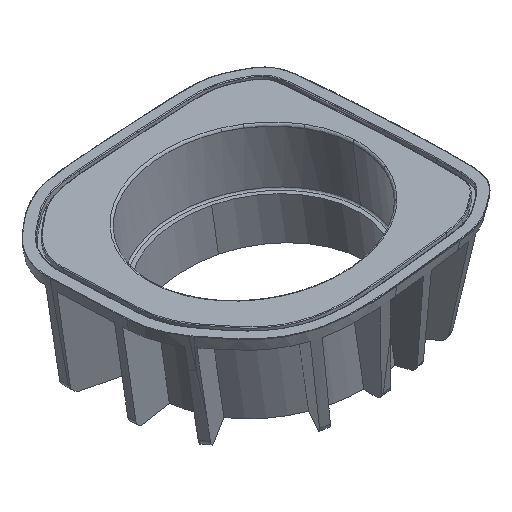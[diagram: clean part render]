
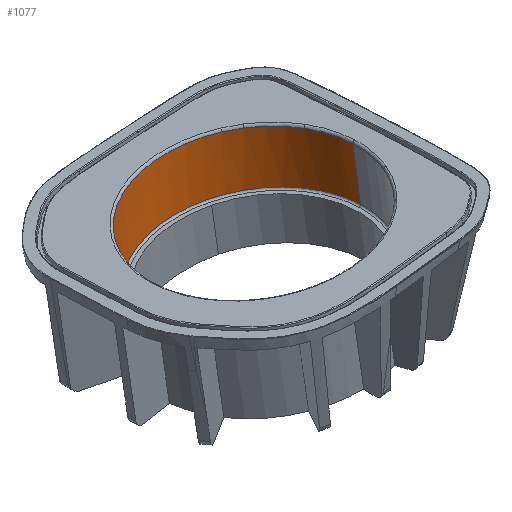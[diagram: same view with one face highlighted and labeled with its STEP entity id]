
A CAD part, isometric view. The second image highlights one B-rep face of the part: STEP entity #1077.
In plain terms, the highlighted free-form (B-spline) face has degree [5, 1] with [9, 2] control points.
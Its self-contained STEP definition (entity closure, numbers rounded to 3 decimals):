
#76=CARTESIAN_POINT('Vertex',(1170.296,51.395,494.192)) ;
#80=CARTESIAN_POINT('Control Point',(1170.296,51.395,494.192)) ;
#81=CARTESIAN_POINT('Control Point',(1170.296,51.394,494.192)) ;
#82=CARTESIAN_POINT('Control Point',(1170.296,51.393,494.192)) ;
#83=CARTESIAN_POINT('Control Point',(1170.296,51.393,494.192)) ;
#84=CARTESIAN_POINT('Control Point',(1170.296,51.392,494.192)) ;
#85=CARTESIAN_POINT('Control Point',(1170.296,51.391,494.193)) ;
#86=CARTESIAN_POINT('Vertex',(1170.296,51.391,494.193)) ;
#125=CARTESIAN_POINT('Vertex',(1167.876,63.154,493.389)) ;
#129=CARTESIAN_POINT('Control Point',(1167.876,63.154,493.389)) ;
#130=CARTESIAN_POINT('Control Point',(1168.836,60.938,493.597)) ;
#131=CARTESIAN_POINT('Control Point',(1169.568,58.622,493.792)) ;
#132=CARTESIAN_POINT('Control Point',(1170.059,56.236,493.954)) ;
#133=CARTESIAN_POINT('Control Point',(1170.302,53.815,494.083)) ;
#134=CARTESIAN_POINT('Control Point',(1170.296,51.395,494.192)) ;
#168=CARTESIAN_POINT('Vertex',(1160.355,73.478,492.172)) ;
#172=CARTESIAN_POINT('Control Point',(1160.355,73.478,492.172)) ;
#173=CARTESIAN_POINT('Control Point',(1162.285,71.785,492.438)) ;
#174=CARTESIAN_POINT('Control Point',(1164.03,69.877,492.691)) ;
#175=CARTESIAN_POINT('Control Point',(1165.561,67.779,492.934)) ;
#176=CARTESIAN_POINT('Control Point',(1166.85,65.524,493.167)) ;
#177=CARTESIAN_POINT('Control Point',(1167.876,63.154,493.389)) ;
#210=CARTESIAN_POINT('Vertex',(1156.604,76.271,491.67)) ;
#214=CARTESIAN_POINT('Control Point',(1160.355,73.478,492.172)) ;
#215=CARTESIAN_POINT('Control Point',(1159.651,74.097,492.074)) ;
#216=CARTESIAN_POINT('Control Point',(1158.922,74.686,491.975)) ;
#217=CARTESIAN_POINT('Control Point',(1158.17,75.246,491.875)) ;
#218=CARTESIAN_POINT('Control Point',(1157.397,75.774,491.773)) ;
#219=CARTESIAN_POINT('Control Point',(1156.604,76.271,491.67)) ;
#551=CARTESIAN_POINT('Vertex',(1111.852,51.249,487.847)) ;
#649=CARTESIAN_POINT('Control Point',(1156.604,76.271,491.67)) ;
#650=CARTESIAN_POINT('Control Point',(1156.101,76.585,491.6)) ;
#651=CARTESIAN_POINT('Control Point',(1155.591,76.887,491.529)) ;
#652=CARTESIAN_POINT('Control Point',(1155.073,77.175,491.458)) ;
#653=CARTESIAN_POINT('Control Point',(1151.926,78.824,491.033)) ;
#654=CARTESIAN_POINT('Control Point',(1148.538,79.985,490.604)) ;
#655=CARTESIAN_POINT('Control Point',(1145.606,80.585,490.251)) ;
#656=CARTESIAN_POINT('Control Point',(1139.649,81.024,489.57)) ;
#657=CARTESIAN_POINT('Control Point',(1133.769,79.955,488.966)) ;
#658=CARTESIAN_POINT('Control Point',(1130.91,79.047,488.69)) ;
#659=CARTESIAN_POINT('Control Point',(1125.481,76.525,488.203)) ;
#660=CARTESIAN_POINT('Control Point',(1120.843,72.726,487.862)) ;
#661=CARTESIAN_POINT('Control Point',(1118.775,70.541,487.732)) ;
#662=CARTESIAN_POINT('Control Point',(1115.529,66.1,487.575)) ;
#663=CARTESIAN_POINT('Control Point',(1113.381,61.043,487.569)) ;
#664=CARTESIAN_POINT('Control Point',(1112.651,58.651,487.597)) ;
#665=CARTESIAN_POINT('Control Point',(1112.13,55.954,487.663)) ;
#666=CARTESIAN_POINT('Control Point',(1111.922,53.231,487.764)) ;
#667=CARTESIAN_POINT('Control Point',(1111.906,52.984,487.774)) ;
#668=CARTESIAN_POINT('Control Point',(1111.879,52.489,487.794)) ;
#669=CARTESIAN_POINT('Control Point',(1111.862,51.993,487.814)) ;
#670=CARTESIAN_POINT('Control Point',(1111.856,51.745,487.825)) ;
#671=CARTESIAN_POINT('Control Point',(1111.853,51.497,487.836)) ;
#672=CARTESIAN_POINT('Control Point',(1111.852,51.249,487.847)) ;
#1009=CARTESIAN_POINT('Control Point',(1111.457,51.39,490.915)) ;
#1010=CARTESIAN_POINT('Control Point',(1115.284,50.027,461.191)) ;
#1011=CARTESIAN_POINT('Control Point',(1111.485,62.198,490.423)) ;
#1012=CARTESIAN_POINT('Control Point',(1115.311,60.643,460.708)) ;
#1013=CARTESIAN_POINT('Control Point',(1116.45,73.019,490.478)) ;
#1014=CARTESIAN_POINT('Control Point',(1120.188,71.272,460.762)) ;
#1015=CARTESIAN_POINT('Control Point',(1126.323,80.644,491.225)) ;
#1016=CARTESIAN_POINT('Control Point',(1129.886,78.761,461.496)) ;
#1017=CARTESIAN_POINT('Control Point',(1146.315,84.116,493.286)) ;
#1018=CARTESIAN_POINT('Control Point',(1149.522,82.171,463.52)) ;
#1019=CARTESIAN_POINT('Control Point',(1162.521,73.508,495.571)) ;
#1020=CARTESIAN_POINT('Control Point',(1165.44,71.752,465.764)) ;
#1021=CARTESIAN_POINT('Control Point',(1167.524,66.945,496.427)) ;
#1022=CARTESIAN_POINT('Control Point',(1170.354,65.306,466.605)) ;
#1023=CARTESIAN_POINT('Control Point',(1170.016,59.245,497.056)) ;
#1024=CARTESIAN_POINT('Control Point',(1172.801,57.742,467.223)) ;
#1025=CARTESIAN_POINT('Control Point',(1169.996,51.538,497.407)) ;
#1026=CARTESIAN_POINT('Control Point',(1172.782,50.173,467.568)) ;
#1028=CARTESIAN_POINT('Control Point',(1113.883,50.526,472.072)) ;
#1029=CARTESIAN_POINT('Control Point',(1113.898,56.571,471.797)) ;
#1030=CARTESIAN_POINT('Control Point',(1115.476,62.62,471.695)) ;
#1031=CARTESIAN_POINT('Control Point',(1118.614,68.111,471.792)) ;
#1032=CARTESIAN_POINT('Control Point',(1125.196,74.745,472.219)) ;
#1033=CARTESIAN_POINT('Control Point',(1133.553,78.356,472.981)) ;
#1034=CARTESIAN_POINT('Control Point',(1136.479,79.19,473.268)) ;
#1035=CARTESIAN_POINT('Control Point',(1144.973,80.443,474.154)) ;
#1036=CARTESIAN_POINT('Control Point',(1153.516,78.551,475.189)) ;
#1037=CARTESIAN_POINT('Control Point',(1158.637,75.998,475.874)) ;
#1038=CARTESIAN_POINT('Control Point',(1164.375,71.107,476.736)) ;
#1039=CARTESIAN_POINT('Control Point',(1168.235,64.827,477.452)) ;
#1040=CARTESIAN_POINT('Control Point',(1169.073,63.184,477.62)) ;
#1041=CARTESIAN_POINT('Control Point',(1170.483,59.777,477.933)) ;
#1042=CARTESIAN_POINT('Control Point',(1171.34,56.186,478.192)) ;
#1043=CARTESIAN_POINT('Control Point',(1171.626,54.361,478.308)) ;
#1044=CARTESIAN_POINT('Control Point',(1171.767,52.516,478.408)) ;
#1045=CARTESIAN_POINT('Control Point',(1171.762,50.673,478.492)) ;
#1046=CARTESIAN_POINT('Vertex',(1113.883,50.526,472.072)) ;
#1048=CARTESIAN_POINT('Vertex',(1171.762,50.673,478.492)) ;
#1052=CARTESIAN_POINT('Control Point',(1170.296,51.391,494.193)) ;
#1053=CARTESIAN_POINT('Control Point',(1170.59,51.247,491.052)) ;
#1054=CARTESIAN_POINT('Control Point',(1170.883,51.104,487.912)) ;
#1055=CARTESIAN_POINT('Control Point',(1171.176,50.96,484.772)) ;
#1056=CARTESIAN_POINT('Control Point',(1171.469,50.816,481.632)) ;
#1057=CARTESIAN_POINT('Control Point',(1171.762,50.673,478.492)) ;
#1060=CARTESIAN_POINT('Control Point',(1111.852,51.249,487.847)) ;
#1061=CARTESIAN_POINT('Control Point',(1112.258,51.105,484.692)) ;
#1062=CARTESIAN_POINT('Control Point',(1112.665,50.96,481.537)) ;
#1063=CARTESIAN_POINT('Control Point',(1113.071,50.815,478.382)) ;
#1064=CARTESIAN_POINT('Control Point',(1113.477,50.671,475.227)) ;
#1065=CARTESIAN_POINT('Control Point',(1113.883,50.526,472.072)) ;
#1068=ORIENTED_EDGE('',*,*,#1050,.T.) ;
#1069=ORIENTED_EDGE('',*,*,#1058,.F.) ;
#1070=ORIENTED_EDGE('',*,*,#88,.T.) ;
#1071=ORIENTED_EDGE('',*,*,#135,.T.) ;
#1072=ORIENTED_EDGE('',*,*,#178,.T.) ;
#1073=ORIENTED_EDGE('',*,*,#220,.T.) ;
#1074=ORIENTED_EDGE('',*,*,#673,.F.) ;
#1075=ORIENTED_EDGE('',*,*,#1066,.T.) ;
#1077=ADVANCED_FACE('\X2\96F64EF651E04F554F53\X0\',(#1076),#1008,.F.) ;
#79=B_SPLINE_CURVE_WITH_KNOTS('',5,(#80,#81,#82,#83,#84,#85),.UNSPECIFIED.,.F.,.U.,(6,6),(0.,0.004),.UNSPECIFIED.) ;
#128=B_SPLINE_CURVE_WITH_KNOTS('',5,(#129,#130,#131,#132,#133,#134),.UNSPECIFIED.,.F.,.U.,(6,6),(0.,12.101),.UNSPECIFIED.) ;
#171=B_SPLINE_CURVE_WITH_KNOTS('',5,(#172,#173,#174,#175,#176,#177),.UNSPECIFIED.,.F.,.U.,(6,6),(0.,12.938),.UNSPECIFIED.) ;
#213=B_SPLINE_CURVE_WITH_KNOTS('',5,(#214,#215,#216,#217,#218,#219),.UNSPECIFIED.,.F.,.U.,(6,6),(-9.952,-5.23),.UNSPECIFIED.) ;
#648=B_SPLINE_CURVE_WITH_KNOTS('',5,(#649,#650,#651,#652,#653,#654,#655,#656,#657,#658,#659,#660,#661,#662,#663,#664,#665,#666,#667,#668,#669,#670,#671,#672),.UNSPECIFIED.,.F.,.U.,(6,3,3,3,3,3,3,6),(108.125,112.492,134.308,156.152,177.998,196.178,197.994,199.81),.UNSPECIFIED.) ;
#1027=B_SPLINE_CURVE_WITH_KNOTS('',5,(#1028,#1029,#1030,#1031,#1032,#1033,#1034,#1035,#1036,#1037,#1038,#1039,#1040,#1041,#1042,#1043,#1044,#1045),.UNSPECIFIED.,.F.,.U.,(6,3,3,3,3,6),(52.462,96.177,118.047,158.088,171.419,184.75),.UNSPECIFIED.) ;
#1051=B_SPLINE_CURVE_WITH_KNOTS('',5,(#1052,#1053,#1054,#1055,#1056,#1057),.UNSPECIFIED.,.F.,.U.,(6,6),(3.232,19.018),.UNSPECIFIED.) ;
#1059=B_SPLINE_CURVE_WITH_KNOTS('',5,(#1060,#1061,#1062,#1063,#1064,#1065),.UNSPECIFIED.,.F.,.U.,(6,6),(3.096,19.018),.UNSPECIFIED.) ;
#1008=B_SPLINE_SURFACE_WITH_KNOTS('',5,1,((#1009,#1010),(#1011,#1012),(#1013,#1014),(#1015,#1016),(#1017,#1018),(#1019,#1020),(#1021,#1022),(#1023,#1024),(#1025,#1026)),.UNSPECIFIED.,.F.,.F.,.U.,(6,3,6),(2,2),(0.,56.648,97.04),(0.,30.001),.UNSPECIFIED.) ;
#88=EDGE_CURVE('',#87,#77,#79,.F.) ;
#135=EDGE_CURVE('',#77,#126,#128,.F.) ;
#178=EDGE_CURVE('',#126,#169,#171,.F.) ;
#220=EDGE_CURVE('',#169,#211,#213,.T.) ;
#673=EDGE_CURVE('',#552,#211,#648,.F.) ;
#1050=EDGE_CURVE('',#1047,#1049,#1027,.T.) ;
#1058=EDGE_CURVE('',#87,#1049,#1051,.T.) ;
#1066=EDGE_CURVE('',#552,#1047,#1059,.T.) ;
#1067=EDGE_LOOP('',(#1068,#1069,#1070,#1071,#1072,#1073,#1074,#1075)) ;
#1076=FACE_OUTER_BOUND('',#1067,.T.) ;
#77=VERTEX_POINT('',#76) ;
#87=VERTEX_POINT('',#86) ;
#126=VERTEX_POINT('',#125) ;
#169=VERTEX_POINT('',#168) ;
#211=VERTEX_POINT('',#210) ;
#552=VERTEX_POINT('',#551) ;
#1047=VERTEX_POINT('',#1046) ;
#1049=VERTEX_POINT('',#1048) ;
